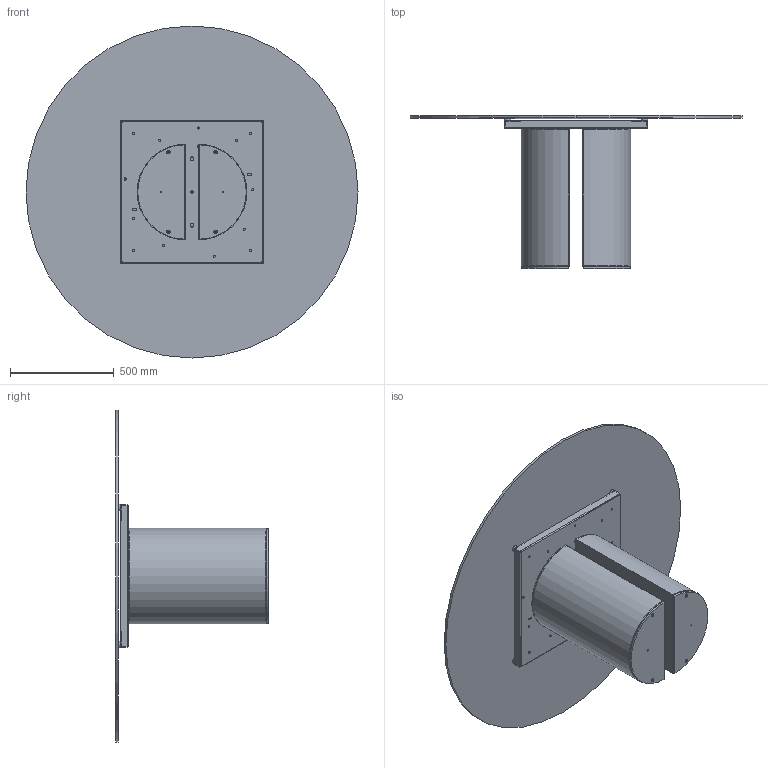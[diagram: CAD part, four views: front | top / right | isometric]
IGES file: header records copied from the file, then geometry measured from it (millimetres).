
Start section: SolidWorks IGES file using analytic representation for surfaces
Global section: file name: Y:\eforma\TECNICO\SOLIDWORKS\E-FORMA\1-TAVOLI\DORA\02 parts\DR08G.IGS; native system: SolidWorks 2022; preprocessor: SolidWorks 2022; author: eforma.tech; date: 240806.150109; units: millimetre
Bounding box: 1600 x 736 x 1600 mm (x, y, z)
Volume: 31992872.9 mm3; surface area: 9134174.2 mm2
Topology: 28 solids, 28 shells, 706 faces, 1778 edges, 1124 vertices
Faces by surface type: plane 358, revolution 348
